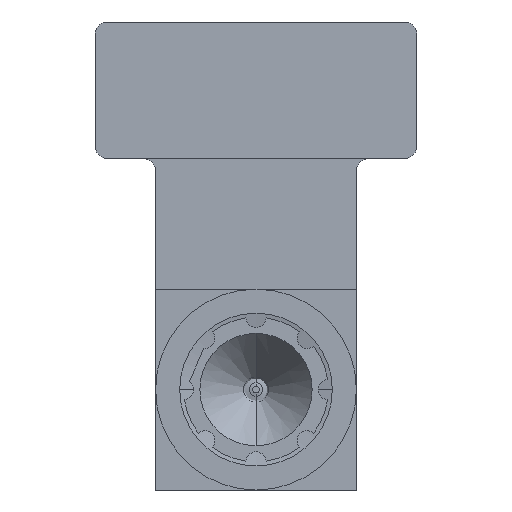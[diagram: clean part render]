
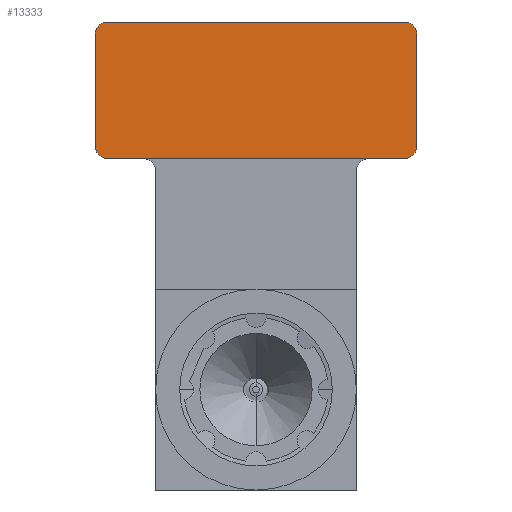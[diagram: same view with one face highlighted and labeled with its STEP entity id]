
A CAD part, front view. The second image highlights one B-rep face of the part: STEP entity #13333.
In plain terms, the highlighted planar face has unit normal (0, -1, 0).
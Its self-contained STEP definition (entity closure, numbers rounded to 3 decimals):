
#1924 = CARTESIAN_POINT ( 'NONE',  ( 3.7, -0.18, 5.75 ) ) ;
#2077 = LINE ( 'NONE', #2395, #46053 ) ;
#2346 = CARTESIAN_POINT ( 'NONE',  ( -3.7, -0.18, 5.75 ) ) ;
#2395 = CARTESIAN_POINT ( 'NONE',  ( 3.7, -0.18, 9.15 ) ) ;
#3861 = DIRECTION ( 'NONE',  ( 0., -1., 0. ) ) ;
#4540 = VECTOR ( 'NONE', #64343, 1000. ) ;
#7143 = EDGE_LOOP ( 'NONE', ( #37257, #25334, #17923, #41692, #62671, #75498, #33220, #32382 ) ) ;
#7172 = CARTESIAN_POINT ( 'NONE',  ( -3.7, -0.18, 9.15 ) ) ;
#8833 = FACE_OUTER_BOUND ( 'NONE', #7143, .T. ) ;
#8952 = CARTESIAN_POINT ( 'NONE',  ( -3.7, -0.18, 6.05 ) ) ;
#11338 = EDGE_CURVE ( 'NONE', #25387, #60877, #2077, .T. ) ;
#11423 = AXIS2_PLACEMENT_3D ( 'NONE', #83566, #25643, #45667 ) ;
#11466 = CARTESIAN_POINT ( 'NONE',  ( 4., -0.18, 6.05 ) ) ;
#12921 = DIRECTION ( 'NONE',  ( 0., 0., -1. ) ) ;
#13333 = ADVANCED_FACE ( 'N', ( #8833 ), #77993, .T. ) ;
#13753 = CIRCLE ( 'NONE', #57744, 0.3 ) ;
#17787 = LINE ( 'NONE', #56089, #4540 ) ;
#17923 = ORIENTED_EDGE ( 'NONE', *, *, #11338, .F. ) ;
#20209 = CARTESIAN_POINT ( 'NONE',  ( -4., -0.18, 8.85 ) ) ;
#21406 = VERTEX_POINT ( 'NONE', #83882 ) ;
#21905 = VECTOR ( 'NONE', #25768, 1000. ) ;
#23222 = DIRECTION ( 'NONE',  ( 0., 1., 0. ) ) ;
#23229 = DIRECTION ( 'NONE',  ( 1., 0., 0. ) ) ;
#25334 = ORIENTED_EDGE ( 'NONE', *, *, #70837, .T. ) ;
#25387 = VERTEX_POINT ( 'NONE', #7172 ) ;
#25643 = DIRECTION ( 'NONE',  ( 0., 1., 0. ) ) ;
#25768 = DIRECTION ( 'NONE',  ( 0., 0., -1. ) ) ;
#26315 = AXIS2_PLACEMENT_3D ( 'NONE', #39800, #46100, #12921 ) ;
#29873 = CARTESIAN_POINT ( 'NONE',  ( -4., -0.18, 8.85 ) ) ;
#29941 = CIRCLE ( 'NONE', #39624, 0.3 ) ;
#30589 = VERTEX_POINT ( 'NONE', #1924 ) ;
#31151 = EDGE_CURVE ( 'NONE', #30589, #34749, #17787, .T. ) ;
#32382 = ORIENTED_EDGE ( 'NONE', *, *, #78363, .F. ) ;
#32592 = CARTESIAN_POINT ( 'NONE',  ( -3.7, -0.18, 8.85 ) ) ;
#32885 = VECTOR ( 'NONE', #72110, 1000. ) ;
#33185 = LINE ( 'NONE', #33193, #21905 ) ;
#33193 = CARTESIAN_POINT ( 'NONE',  ( 4., -0.18, 6.05 ) ) ;
#33220 = ORIENTED_EDGE ( 'NONE', *, *, #31151, .F. ) ;
#34749 = VERTEX_POINT ( 'NONE', #2346 ) ;
#36020 = VERTEX_POINT ( 'NONE', #29873 ) ;
#36179 = CARTESIAN_POINT ( 'NONE',  ( 3.7, -0.18, 8.85 ) ) ;
#37257 = ORIENTED_EDGE ( 'NONE', *, *, #63481, .F. ) ;
#39624 = AXIS2_PLACEMENT_3D ( 'NONE', #36179, #3861, #49580 ) ;
#39800 = CARTESIAN_POINT ( 'NONE',  ( 0., -0.18, 0. ) ) ;
#41692 = ORIENTED_EDGE ( 'NONE', *, *, #67827, .F. ) ;
#43604 = VERTEX_POINT ( 'NONE', #76236 ) ;
#45667 = DIRECTION ( 'NONE',  ( 0., 0., -1. ) ) ;
#46053 = VECTOR ( 'NONE', #23229, 1000. ) ;
#46100 = DIRECTION ( 'NONE',  ( 0., -1., 0. ) ) ;
#48141 = DIRECTION ( 'NONE',  ( 0., 0., -1. ) ) ;
#48462 = EDGE_CURVE ( 'NONE', #43604, #36020, #56298, .T. ) ;
#49580 = DIRECTION ( 'NONE',  ( 0., 0., -1. ) ) ;
#54173 = DIRECTION ( 'NONE',  ( 0., 0., -1. ) ) ;
#56089 = CARTESIAN_POINT ( 'NONE',  ( -3.7, -0.18, 5.75 ) ) ;
#56298 = LINE ( 'NONE', #20209, #32885 ) ;
#56664 = VERTEX_POINT ( 'NONE', #11466 ) ;
#57744 = AXIS2_PLACEMENT_3D ( 'NONE', #32592, #60163, #54173 ) ;
#60163 = DIRECTION ( 'NONE',  ( 0., 1., 0. ) ) ;
#60877 = VERTEX_POINT ( 'NONE', #78056 ) ;
#62671 = ORIENTED_EDGE ( 'NONE', *, *, #48462, .F. ) ;
#63481 = EDGE_CURVE ( 'NONE', #21406, #56664, #33185, .T. ) ;
#64343 = DIRECTION ( 'NONE',  ( -1., 0., 0. ) ) ;
#67827 = EDGE_CURVE ( 'NONE', #36020, #25387, #13753, .T. ) ;
#68506 = CIRCLE ( 'NONE', #84097, 0.3 ) ;
#70837 = EDGE_CURVE ( 'NONE', #21406, #60877, #29941, .T. ) ;
#70934 = CIRCLE ( 'NONE', #11423, 0.3 ) ;
#72110 = DIRECTION ( 'NONE',  ( 0., 0., 1. ) ) ;
#72322 = EDGE_CURVE ( 'NONE', #34749, #43604, #68506, .T. ) ;
#75498 = ORIENTED_EDGE ( 'NONE', *, *, #72322, .F. ) ;
#76236 = CARTESIAN_POINT ( 'NONE',  ( -4., -0.18, 6.05 ) ) ;
#77993 = PLANE ( 'NONE',  #26315 ) ;
#78056 = CARTESIAN_POINT ( 'NONE',  ( 3.7, -0.18, 9.15 ) ) ;
#78363 = EDGE_CURVE ( 'NONE', #56664, #30589, #70934, .T. ) ;
#83566 = CARTESIAN_POINT ( 'NONE',  ( 3.7, -0.18, 6.05 ) ) ;
#83882 = CARTESIAN_POINT ( 'NONE',  ( 4., -0.18, 8.85 ) ) ;
#84097 = AXIS2_PLACEMENT_3D ( 'NONE', #8952, #23222, #48141 ) ;
